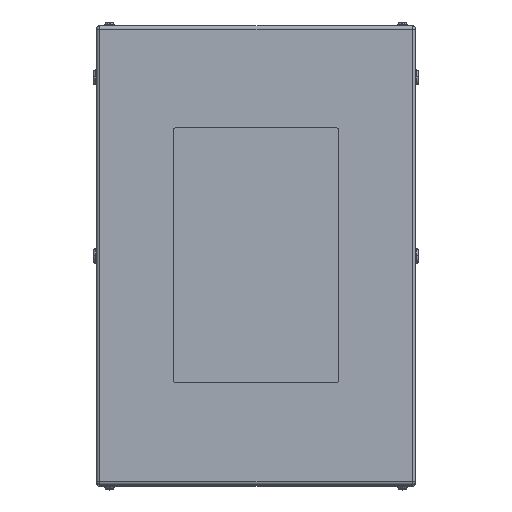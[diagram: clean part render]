
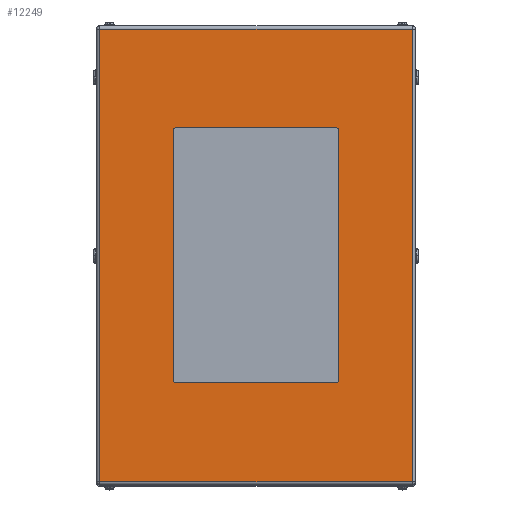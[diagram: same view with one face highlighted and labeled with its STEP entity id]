
A CAD part, top view. The second image highlights one B-rep face of the part: STEP entity #12249.
In plain terms, the highlighted planar face has unit normal (0, 0, 1).
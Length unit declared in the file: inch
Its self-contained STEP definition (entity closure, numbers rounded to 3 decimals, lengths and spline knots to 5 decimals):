
#147 = CIRCLE ( 'NONE', #14395, 0.25 ) ;
#661 = CARTESIAN_POINT ( 'NONE',  ( -12.234, 18., 29.5 ) ) ;
#740 = ORIENTED_EDGE ( 'NONE', *, *, #2639, .F. ) ;
#746 = LINE ( 'NONE', #6939, #16022 ) ;
#857 = AXIS2_PLACEMENT_3D ( 'NONE', #15682, #19222, #9137 ) ;
#1053 = DIRECTION ( 'NONE',  ( 1., 0., 0. ) ) ;
#1133 = DIRECTION ( 'NONE',  ( 0., -1., 0. ) ) ;
#1748 = CIRCLE ( 'NONE', #8004, 0.25 ) ;
#1953 = ORIENTED_EDGE ( 'NONE', *, *, #19984, .F. ) ;
#1991 = CARTESIAN_POINT ( 'NONE',  ( -6.5, 9.75, 29.5 ) ) ;
#2116 = ORIENTED_EDGE ( 'NONE', *, *, #4337, .F. ) ;
#2503 = VERTEX_POINT ( 'NONE', #1991 ) ;
#2639 = EDGE_CURVE ( 'NONE', #8046, #9685, #3487, .T. ) ;
#2764 = DIRECTION ( 'NONE',  ( 0., 0., 1. ) ) ;
#2957 = AXIS2_PLACEMENT_3D ( 'NONE', #3276, #9896, #6742 ) ;
#3112 = VECTOR ( 'NONE', #5541, 39.37008 ) ;
#3276 = CARTESIAN_POINT ( 'NONE',  ( -6.25, 9.75, 29.5 ) ) ;
#3487 = CIRCLE ( 'NONE', #6573, 0.25 ) ;
#3603 = EDGE_CURVE ( 'NONE', #4502, #16471, #14969, .T. ) ;
#3888 = EDGE_LOOP ( 'NONE', ( #11803, #20725, #21713, #10645 ) ) ;
#3947 = CARTESIAN_POINT ( 'NONE',  ( 12.234, -17.734, 29.5 ) ) ;
#4191 = CARTESIAN_POINT ( 'NONE',  ( -6.25, -9.75, 29.5 ) ) ;
#4281 = ORIENTED_EDGE ( 'NONE', *, *, #15081, .F. ) ;
#4337 = EDGE_CURVE ( 'NONE', #5776, #8046, #20314, .T. ) ;
#4502 = VERTEX_POINT ( 'NONE', #8494 ) ;
#5128 = EDGE_CURVE ( 'NONE', #9685, #16641, #9147, .T. ) ;
#5321 = VERTEX_POINT ( 'NONE', #12825 ) ;
#5400 = DIRECTION ( 'NONE',  ( 1., 0., 0. ) ) ;
#5541 = DIRECTION ( 'NONE',  ( 0., -1., 0. ) ) ;
#5681 = PLANE ( 'NONE',  #857 ) ;
#5776 = VERTEX_POINT ( 'NONE', #8811 ) ;
#5831 = DIRECTION ( 'NONE',  ( 1., 0., 0. ) ) ;
#5847 = DIRECTION ( 'NONE',  ( -1., 0., 0. ) ) ;
#5949 = CARTESIAN_POINT ( 'NONE',  ( 6.25, -10., 29.5 ) ) ;
#6002 = VECTOR ( 'NONE', #17595, 39.37008 ) ;
#6364 = VECTOR ( 'NONE', #1053, 39.37008 ) ;
#6365 = CARTESIAN_POINT ( 'NONE',  ( 12.234, -17.734, 29.5 ) ) ;
#6455 = DIRECTION ( 'NONE',  ( 0., 1., 0. ) ) ;
#6573 = AXIS2_PLACEMENT_3D ( 'NONE', #9133, #10794, #19375 ) ;
#6742 = DIRECTION ( 'NONE',  ( 1., 0., 0. ) ) ;
#6939 = CARTESIAN_POINT ( 'NONE',  ( 12.234, 18., 29.5 ) ) ;
#6970 = LINE ( 'NONE', #10922, #21529 ) ;
#7940 = LINE ( 'NONE', #6365, #6364 ) ;
#7954 = EDGE_CURVE ( 'NONE', #18271, #12330, #746, .T. ) ;
#8004 = AXIS2_PLACEMENT_3D ( 'NONE', #10595, #14020, #5400 ) ;
#8046 = VERTEX_POINT ( 'NONE', #20884 ) ;
#8342 = CARTESIAN_POINT ( 'NONE',  ( -6.25, -10., 29.5 ) ) ;
#8458 = LINE ( 'NONE', #9148, #15569 ) ;
#8494 = CARTESIAN_POINT ( 'NONE',  ( -12.234, 17.734, 29.5 ) ) ;
#8538 = LINE ( 'NONE', #9309, #18819 ) ;
#8620 = ORIENTED_EDGE ( 'NONE', *, *, #16908, .F. ) ;
#8811 = CARTESIAN_POINT ( 'NONE',  ( 6.5, -9.75, 29.5 ) ) ;
#8903 = FACE_OUTER_BOUND ( 'NONE', #3888, .T. ) ;
#9133 = CARTESIAN_POINT ( 'NONE',  ( 6.25, 9.75, 29.5 ) ) ;
#9137 = DIRECTION ( 'NONE',  ( -1., 0., 0. ) ) ;
#9147 = LINE ( 'NONE', #12523, #6002 ) ;
#9148 = CARTESIAN_POINT ( 'NONE',  ( -6.25, -10., 29.5 ) ) ;
#9309 = CARTESIAN_POINT ( 'NONE',  ( 12.5, 17.734, 29.5 ) ) ;
#9685 = VERTEX_POINT ( 'NONE', #12092 ) ;
#9896 = DIRECTION ( 'NONE',  ( 0., 0., 1. ) ) ;
#9967 = EDGE_LOOP ( 'NONE', ( #8620, #11991, #15487, #4281, #19612, #740, #2116, #1953 ) ) ;
#10595 = CARTESIAN_POINT ( 'NONE',  ( 6.25, -9.75, 29.5 ) ) ;
#10645 = ORIENTED_EDGE ( 'NONE', *, *, #20143, .T. ) ;
#10794 = DIRECTION ( 'NONE',  ( 0., 0., 1. ) ) ;
#10922 = CARTESIAN_POINT ( 'NONE',  ( -6.5, 9.75, 29.5 ) ) ;
#11803 = ORIENTED_EDGE ( 'NONE', *, *, #3603, .T. ) ;
#11991 = ORIENTED_EDGE ( 'NONE', *, *, #21557, .F. ) ;
#12092 = CARTESIAN_POINT ( 'NONE',  ( 6.25, 10., 29.5 ) ) ;
#12249 = ADVANCED_FACE ( 'NONE', ( #20254, #8903 ), #5681, .F. ) ;
#12303 = DIRECTION ( 'NONE',  ( 0., 1., 0. ) ) ;
#12330 = VERTEX_POINT ( 'NONE', #16272 ) ;
#12523 = CARTESIAN_POINT ( 'NONE',  ( -6.25, 10., 29.5 ) ) ;
#12560 = DIRECTION ( 'NONE',  ( 1., 0., 0. ) ) ;
#12825 = CARTESIAN_POINT ( 'NONE',  ( -6.5, -9.75, 29.5 ) ) ;
#13866 = VERTEX_POINT ( 'NONE', #5949 ) ;
#13959 = CARTESIAN_POINT ( 'NONE',  ( -12.234, -17.734, 29.5 ) ) ;
#14020 = DIRECTION ( 'NONE',  ( 0., 0., 1. ) ) ;
#14395 = AXIS2_PLACEMENT_3D ( 'NONE', #4191, #2764, #12560 ) ;
#14969 = LINE ( 'NONE', #661, #3112 ) ;
#15081 = EDGE_CURVE ( 'NONE', #16641, #2503, #15984, .T. ) ;
#15487 = ORIENTED_EDGE ( 'NONE', *, *, #18727, .F. ) ;
#15569 = VECTOR ( 'NONE', #5831, 39.37008 ) ;
#15682 = CARTESIAN_POINT ( 'NONE',  ( 12.5, 18., 29.5 ) ) ;
#15808 = VECTOR ( 'NONE', #6455, 39.37008 ) ;
#15984 = CIRCLE ( 'NONE', #2957, 0.25 ) ;
#16022 = VECTOR ( 'NONE', #12303, 39.37008 ) ;
#16272 = CARTESIAN_POINT ( 'NONE',  ( 12.234, 17.734, 29.5 ) ) ;
#16471 = VERTEX_POINT ( 'NONE', #13959 ) ;
#16641 = VERTEX_POINT ( 'NONE', #18227 ) ;
#16651 = EDGE_CURVE ( 'NONE', #16471, #18271, #7940, .T. ) ;
#16908 = EDGE_CURVE ( 'NONE', #18171, #13866, #8458, .T. ) ;
#17595 = DIRECTION ( 'NONE',  ( -1., 0., 0. ) ) ;
#18171 = VERTEX_POINT ( 'NONE', #8342 ) ;
#18227 = CARTESIAN_POINT ( 'NONE',  ( -6.25, 10., 29.5 ) ) ;
#18271 = VERTEX_POINT ( 'NONE', #3947 ) ;
#18727 = EDGE_CURVE ( 'NONE', #2503, #5321, #6970, .T. ) ;
#18819 = VECTOR ( 'NONE', #5847, 39.37008 ) ;
#19222 = DIRECTION ( 'NONE',  ( 0., 0., -1. ) ) ;
#19375 = DIRECTION ( 'NONE',  ( -1., 0., 0. ) ) ;
#19612 = ORIENTED_EDGE ( 'NONE', *, *, #5128, .F. ) ;
#19984 = EDGE_CURVE ( 'NONE', #13866, #5776, #1748, .T. ) ;
#20143 = EDGE_CURVE ( 'NONE', #12330, #4502, #8538, .T. ) ;
#20254 = FACE_BOUND ( 'NONE', #9967, .T. ) ;
#20314 = LINE ( 'NONE', #21523, #15808 ) ;
#20725 = ORIENTED_EDGE ( 'NONE', *, *, #16651, .T. ) ;
#20884 = CARTESIAN_POINT ( 'NONE',  ( 6.5, 9.75, 29.5 ) ) ;
#21523 = CARTESIAN_POINT ( 'NONE',  ( 6.5, 9.75, 29.5 ) ) ;
#21529 = VECTOR ( 'NONE', #1133, 39.37008 ) ;
#21557 = EDGE_CURVE ( 'NONE', #5321, #18171, #147, .T. ) ;
#21713 = ORIENTED_EDGE ( 'NONE', *, *, #7954, .T. ) ;
